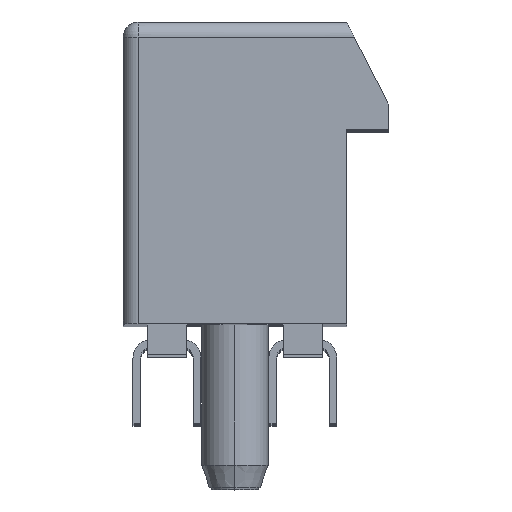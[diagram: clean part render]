
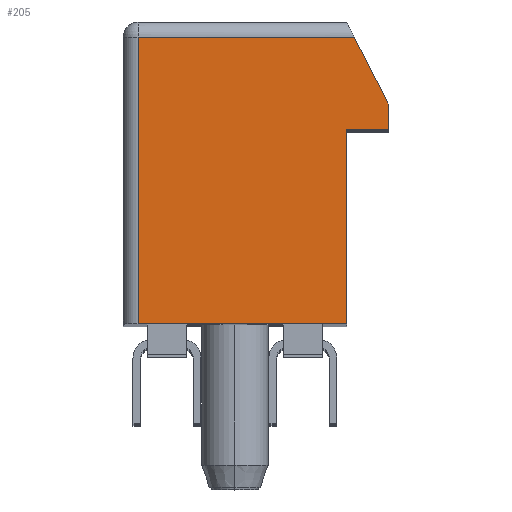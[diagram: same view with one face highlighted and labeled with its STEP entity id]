
A CAD part, top view. The second image highlights one B-rep face of the part: STEP entity #205.
In plain terms, the highlighted planar face has unit normal (0, 0, 1).
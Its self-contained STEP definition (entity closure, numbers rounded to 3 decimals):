
#205 = ADVANCED_FACE ( 'NONE', ( #4335 ), #40234, .T. ) ;
#2011 = ORIENTED_EDGE ( 'NONE', *, *, #30289, .T. ) ;
#2327 = DIRECTION ( 'NONE',  ( 0., 1., 0. ) ) ;
#2753 = CARTESIAN_POINT ( 'NONE',  ( 5.1, 7.25, 56. ) ) ;
#3435 = EDGE_CURVE ( 'NONE', #11026, #41578, #36861, .T. ) ;
#3549 = ORIENTED_EDGE ( 'NONE', *, *, #30601, .T. ) ;
#3556 = EDGE_CURVE ( 'NONE', #16099, #8936, #23830, .T. ) ;
#3608 = EDGE_CURVE ( 'NONE', #41578, #32334, #30729, .T. ) ;
#4335 = FACE_OUTER_BOUND ( 'NONE', #6788, .T. ) ;
#5718 = ORIENTED_EDGE ( 'NONE', *, *, #3435, .T. ) ;
#6788 = EDGE_LOOP ( 'NONE', ( #2011, #3549, #5718, #8158, #10215, #12556, #14316 ) ) ;
#7119 = EDGE_CURVE ( 'NONE', #14202, #16099, #24623, .T. ) ;
#7198 = VERTEX_POINT ( 'NONE', #28421 ) ;
#8067 = CARTESIAN_POINT ( 'NONE',  ( 5.1, 6.45, 56. ) ) ;
#8158 = ORIENTED_EDGE ( 'NONE', *, *, #3608, .T. ) ;
#8677 = AXIS2_PLACEMENT_3D ( 'NONE', #40199, #40191, #40149 ) ;
#8936 = VERTEX_POINT ( 'NONE', #29751 ) ;
#9404 = DIRECTION ( 'NONE',  ( 1., 0., 0. ) ) ;
#10215 = ORIENTED_EDGE ( 'NONE', *, *, #42491, .T. ) ;
#10351 = VECTOR ( 'NONE', #38485, 1000. ) ;
#11026 = VERTEX_POINT ( 'NONE', #39585 ) ;
#12556 = ORIENTED_EDGE ( 'NONE', *, *, #7119, .T. ) ;
#12859 = VECTOR ( 'NONE', #22544, 1000. ) ;
#13161 = VECTOR ( 'NONE', #9404, 1000. ) ;
#13804 = CARTESIAN_POINT ( 'NONE',  ( 5.1, 7.25, 56. ) ) ;
#14185 = LINE ( 'NONE', #32554, #13161 ) ;
#14202 = VERTEX_POINT ( 'NONE', #8067 ) ;
#14316 = ORIENTED_EDGE ( 'NONE', *, *, #3556, .T. ) ;
#14318 = VECTOR ( 'NONE', #30910, 1000. ) ;
#15737 = CARTESIAN_POINT ( 'NONE',  ( -3.7, 9.5, 56. ) ) ;
#16099 = VERTEX_POINT ( 'NONE', #13804 ) ;
#18646 = VECTOR ( 'NONE', #42303, 1000. ) ;
#19703 = LINE ( 'NONE', #15737, #18646 ) ;
#22544 = DIRECTION ( 'NONE',  ( 0., 1., 0. ) ) ;
#22926 = CARTESIAN_POINT ( 'NONE',  ( 3.7, 6.45, 56. ) ) ;
#23830 = LINE ( 'NONE', #28473, #40389 ) ;
#24623 = LINE ( 'NONE', #2753, #32502 ) ;
#27106 = DIRECTION ( 'NONE',  ( -0.454, 0.891, 0. ) ) ;
#27550 = CARTESIAN_POINT ( 'NONE',  ( -3.2, 0., 56. ) ) ;
#28421 = CARTESIAN_POINT ( 'NONE',  ( -3.2, 9.5, 56. ) ) ;
#28473 = CARTESIAN_POINT ( 'NONE',  ( 3.7, 10., 56. ) ) ;
#29751 = CARTESIAN_POINT ( 'NONE',  ( 3.955, 9.5, 56. ) ) ;
#29792 = CARTESIAN_POINT ( 'NONE',  ( 3.7, 0., 56. ) ) ;
#30289 = EDGE_CURVE ( 'NONE', #8936, #7198, #19703, .T. ) ;
#30601 = EDGE_CURVE ( 'NONE', #7198, #11026, #40813, .T. ) ;
#30729 = LINE ( 'NONE', #22926, #12859 ) ;
#30910 = DIRECTION ( 'NONE',  ( 0., -1., 0. ) ) ;
#32334 = VERTEX_POINT ( 'NONE', #39315 ) ;
#32502 = VECTOR ( 'NONE', #2327, 1000. ) ;
#32554 = CARTESIAN_POINT ( 'NONE',  ( 5.1, 6.45, 56. ) ) ;
#36861 = LINE ( 'NONE', #36953, #10351 ) ;
#36953 = CARTESIAN_POINT ( 'NONE',  ( -3.7, 0., 56. ) ) ;
#38485 = DIRECTION ( 'NONE',  ( 1., 0., 0. ) ) ;
#39315 = CARTESIAN_POINT ( 'NONE',  ( 3.7, 6.45, 56. ) ) ;
#39585 = CARTESIAN_POINT ( 'NONE',  ( -3.2, 0., 56. ) ) ;
#40149 = DIRECTION ( 'NONE',  ( 1., 0., 0. ) ) ;
#40191 = DIRECTION ( 'NONE',  ( 0., 0., 1. ) ) ;
#40199 = CARTESIAN_POINT ( 'NONE',  ( 0., 0., 56. ) ) ;
#40234 = PLANE ( 'NONE',  #8677 ) ;
#40389 = VECTOR ( 'NONE', #27106, 1000. ) ;
#40813 = LINE ( 'NONE', #27550, #14318 ) ;
#41578 = VERTEX_POINT ( 'NONE', #29792 ) ;
#42303 = DIRECTION ( 'NONE',  ( -1., 0., 0. ) ) ;
#42491 = EDGE_CURVE ( 'NONE', #32334, #14202, #14185, .T. ) ;
